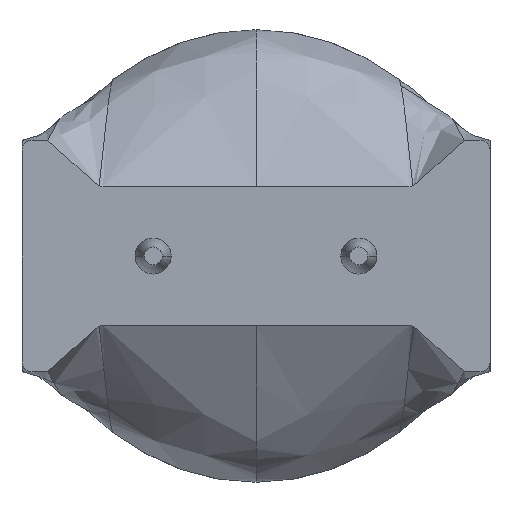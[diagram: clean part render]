
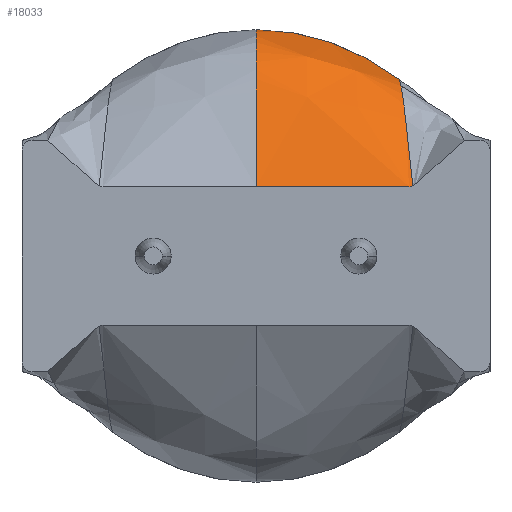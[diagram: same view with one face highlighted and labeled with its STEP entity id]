
A CAD part, front view. The second image highlights one B-rep face of the part: STEP entity #18033.
In plain terms, the highlighted free-form (B-spline) face has degree [3, 3] with [4, 9] control points.
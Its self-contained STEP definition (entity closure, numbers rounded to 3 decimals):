
#7609 = CARTESIAN_POINT ( 'NONE',  ( 0., 0., 1.35 ) ) ;
#8089 = DIRECTION ( 'NONE',  ( 1., 0., 0. ) ) ;
#8090 = VECTOR ( 'NONE', #8089, 1000. ) ;
#8091 = CARTESIAN_POINT ( 'NONE',  ( -3.05, 0., 1.35 ) ) ;
#8092 = LINE ( 'NONE', #8091, #8090 ) ;
#8093 = CARTESIAN_POINT ( 'NONE',  ( 2.973, 0., 1.35 ) ) ;
#9619 = CARTESIAN_POINT ( 'NONE',  ( 2.734, 3., 3.447 ) ) ;
#9631 = DIRECTION ( 'NONE',  ( 0., 0., 1. ) ) ;
#9632 = DIRECTION ( 'NONE',  ( 0., 1., 0. ) ) ;
#9633 = CARTESIAN_POINT ( 'NONE',  ( 0., 3., 0. ) ) ;
#9634 = AXIS2_PLACEMENT_3D ( 'NONE', #9633, #9632, #9631 ) ;
#9635 = CIRCLE ( 'NONE', #9634, 4.4 ) ;
#10106 = CARTESIAN_POINT ( 'NONE',  ( 0., 3., 4.4 ) ) ;
#11373 = CARTESIAN_POINT ( 'NONE',  ( 0., 0.94, 3.159 ) ) ;
#11374 = CARTESIAN_POINT ( 'NONE',  ( 0., 0.553, 2.413 ) ) ;
#11375 = CARTESIAN_POINT ( 'NONE',  ( 0., 0.239, 1.81 ) ) ;
#11376 = CARTESIAN_POINT ( 'NONE',  ( 0., 0., 1.35 ) ) ;
#11378 = B_SPLINE_CURVE_WITH_KNOTS ( 'NONE', 3,
 ( #11393, #11392, #11451, #11450, #11449, #11448, #11447 ),
 .UNSPECIFIED., .F., .F.,
 ( 4, 3, 4 ),
 ( 0., 0., 0. ),
 .UNSPECIFIED. ) ;
#11380 =( BOUNDED_SURFACE ( )  B_SPLINE_SURFACE ( 3, 3, ( 
 ( #11376, #11375, #11374, #11373, #11426, #11425, #11424, #11423, #11422 ),
 ( #11421, #11420, #11419, #11418, #11417, #11416, #11415, #11414, #11413 ),
 ( #11412, #11411, #11410, #11409, #11408, #11407, #11406, #11405, #11404 ),
 ( #11403, #11402, #11401, #11400, #11399, #11398, #11397, #11396, #11395 ) ),
 .UNSPECIFIED., .F., .F., .F. ) 
 B_SPLINE_SURFACE_WITH_KNOTS ( ( 4, 4 ),
 ( 4, 1, 1, 1, 1, 1, 4 ),
 ( 0., 1. ),
 ( 0., 0.333, 0.438, 0.542, 0.667, 0.875, 1. ),
 .UNSPECIFIED. ) 
 GEOMETRIC_REPRESENTATION_ITEM ( )  RATIONAL_B_SPLINE_SURFACE ( (
 ( 1., 1., 1., 1., 1., 1., 1., 1., 1.),
 ( 1., 0.996, 0.99, 0.984, 0.98, 0.974, 0.969, 0.964, 0.963),
 ( 1., 0.996, 0.99, 0.984, 0.98, 0.974, 0.969, 0.964, 0.963),
 ( 1., 1., 1., 1., 1., 1., 1., 1., 1.) ) ) 
 REPRESENTATION_ITEM ( '' )  SURFACE ( )  );
#11381 = CARTESIAN_POINT ( 'NONE',  ( 0., 3., 4.4 ) ) ;
#11382 = CARTESIAN_POINT ( 'NONE',  ( 0., 2.805, 4.398 ) ) ;
#11383 = CARTESIAN_POINT ( 'NONE',  ( 0., 2.287, 4.394 ) ) ;
#11384 = CARTESIAN_POINT ( 'NONE',  ( 0., 1.65, 4.091 ) ) ;
#11385 = CARTESIAN_POINT ( 'NONE',  ( 0., 1.181, 3.62 ) ) ;
#11386 = CARTESIAN_POINT ( 'NONE',  ( 0., 0.94, 3.159 ) ) ;
#11387 = CARTESIAN_POINT ( 'NONE',  ( 0., 0.553, 2.413 ) ) ;
#11388 = CARTESIAN_POINT ( 'NONE',  ( 0., 0.239, 1.81 ) ) ;
#11389 = CARTESIAN_POINT ( 'NONE',  ( 0., 0., 1.35 ) ) ;
#11390 = B_SPLINE_CURVE_WITH_KNOTS ( 'NONE', 3,
 ( #11389, #11388, #11387, #11386, #11385, #11384, #11383, #11382, #11381 ),
 .UNSPECIFIED., .F., .F.,
 ( 4, 1, 1, 1, 1, 1, 4 ),
 ( 0., 0.333, 0.438, 0.542, 0.667, 0.875, 1. ),
 .UNSPECIFIED. ) ;
#11391 = FACE_OUTER_BOUND ( 'NONE', #18034, .T. ) ;
#11392 = CARTESIAN_POINT ( 'NONE',  ( 2.991, 0., 1.35 ) ) ;
#11393 = CARTESIAN_POINT ( 'NONE',  ( 2.973, 0., 1.35 ) ) ;
#11394 = CARTESIAN_POINT ( 'NONE',  ( 3.048, 0.012, 1.365 ) ) ;
#11395 = CARTESIAN_POINT ( 'NONE',  ( 2.734, 3., 3.447 ) ) ;
#11396 = CARTESIAN_POINT ( 'NONE',  ( 2.747, 2.823, 3.454 ) ) ;
#11397 = CARTESIAN_POINT ( 'NONE',  ( 2.782, 2.35, 3.472 ) ) ;
#11398 = CARTESIAN_POINT ( 'NONE',  ( 2.831, 1.758, 3.273 ) ) ;
#11399 = CARTESIAN_POINT ( 'NONE',  ( 2.877, 1.297, 2.948 ) ) ;
#11400 = CARTESIAN_POINT ( 'NONE',  ( 2.912, 1.033, 2.624 ) ) ;
#11401 = CARTESIAN_POINT ( 'NONE',  ( 2.969, 0.607, 2.098 ) ) ;
#11402 = CARTESIAN_POINT ( 'NONE',  ( 3.015, 0.263, 1.674 ) ) ;
#11403 = CARTESIAN_POINT ( 'NONE',  ( 3.05, 0., 1.35 ) ) ;
#11404 = CARTESIAN_POINT ( 'NONE',  ( 1.949, 3., 4.07 ) ) ;
#11405 = CARTESIAN_POINT ( 'NONE',  ( 1.952, 2.816, 4.06 ) ) ;
#11406 = CARTESIAN_POINT ( 'NONE',  ( 1.962, 2.325, 4.034 ) ) ;
#11407 = CARTESIAN_POINT ( 'NONE',  ( 1.975, 1.715, 3.751 ) ) ;
#11408 = CARTESIAN_POINT ( 'NONE',  ( 1.987, 1.249, 3.331 ) ) ;
#11409 = CARTESIAN_POINT ( 'NONE',  ( 1.997, 0.993, 2.928 ) ) ;
#11410 = CARTESIAN_POINT ( 'NONE',  ( 2.012, 0.583, 2.276 ) ) ;
#11411 = CARTESIAN_POINT ( 'NONE',  ( 2.024, 0.252, 1.75 ) ) ;
#11412 = CARTESIAN_POINT ( 'NONE',  ( 2.033, 0., 1.35 ) ) ;
#11413 = CARTESIAN_POINT ( 'NONE',  ( 1.002, 3., 4.4 ) ) ;
#11414 = CARTESIAN_POINT ( 'NONE',  ( 1.003, 2.805, 4.398 ) ) ;
#11415 = CARTESIAN_POINT ( 'NONE',  ( 1.006, 2.287, 4.394 ) ) ;
#11416 = CARTESIAN_POINT ( 'NONE',  ( 1.009, 1.65, 4.091 ) ) ;
#11417 = CARTESIAN_POINT ( 'NONE',  ( 1.011, 1.181, 3.62 ) ) ;
#11418 = CARTESIAN_POINT ( 'NONE',  ( 1.012, 0.94, 3.159 ) ) ;
#11419 = CARTESIAN_POINT ( 'NONE',  ( 1.013, 0.553, 2.413 ) ) ;
#11420 = CARTESIAN_POINT ( 'NONE',  ( 1.015, 0.239, 1.81 ) ) ;
#11421 = CARTESIAN_POINT ( 'NONE',  ( 1.017, 0., 1.35 ) ) ;
#11422 = CARTESIAN_POINT ( 'NONE',  ( 0., 3., 4.4 ) ) ;
#11423 = CARTESIAN_POINT ( 'NONE',  ( 0., 2.805, 4.398 ) ) ;
#11424 = CARTESIAN_POINT ( 'NONE',  ( 0., 2.287, 4.394 ) ) ;
#11425 = CARTESIAN_POINT ( 'NONE',  ( 0., 1.65, 4.091 ) ) ;
#11426 = CARTESIAN_POINT ( 'NONE',  ( 0., 1.181, 3.62 ) ) ;
#11447 = CARTESIAN_POINT ( 'NONE',  ( 3.048, 0.012, 1.365 ) ) ;
#11448 = CARTESIAN_POINT ( 'NONE',  ( 3.041, 0.01, 1.362 ) ) ;
#11449 = CARTESIAN_POINT ( 'NONE',  ( 3.034, 0.008, 1.359 ) ) ;
#11450 = CARTESIAN_POINT ( 'NONE',  ( 3.027, 0.006, 1.357 ) ) ;
#11451 = CARTESIAN_POINT ( 'NONE',  ( 3.01, 0.002, 1.353 ) ) ;
#11864 = CARTESIAN_POINT ( 'NONE',  ( 2.734, 3., 3.447 ) ) ;
#11865 = CARTESIAN_POINT ( 'NONE',  ( 2.747, 2.823, 3.454 ) ) ;
#11866 = CARTESIAN_POINT ( 'NONE',  ( 2.782, 2.35, 3.472 ) ) ;
#11867 = CARTESIAN_POINT ( 'NONE',  ( 2.831, 1.758, 3.273 ) ) ;
#11868 = CARTESIAN_POINT ( 'NONE',  ( 2.877, 1.297, 2.948 ) ) ;
#11869 = CARTESIAN_POINT ( 'NONE',  ( 2.912, 1.033, 2.624 ) ) ;
#11870 = CARTESIAN_POINT ( 'NONE',  ( 2.968, 0.611, 2.103 ) ) ;
#11871 = CARTESIAN_POINT ( 'NONE',  ( 3.014, 0.271, 1.683 ) ) ;
#11872 = CARTESIAN_POINT ( 'NONE',  ( 3.048, 0.012, 1.365 ) ) ;
#11874 = B_SPLINE_CURVE_WITH_KNOTS ( 'NONE', 3,
 ( #11872, #11871, #11870, #11869, #11868, #11867, #11866, #11865, #11864 ),
 .UNSPECIFIED., .F., .F.,
 ( 4, 1, 1, 1, 1, 1, 4 ),
 ( 0.005, 0.333, 0.438, 0.542, 0.667, 0.875, 1. ),
 .UNSPECIFIED. ) ;
#16895 = VERTEX_POINT ( 'NONE', #7609 ) ;
#17015 = VERTEX_POINT ( 'NONE', #8093 ) ;
#17017 = EDGE_CURVE ( 'NONE', #16895, #17015, #8092, .T. ) ;
#17560 = EDGE_CURVE ( 'NONE', #17689, #17573, #9635, .T. ) ;
#17573 = VERTEX_POINT ( 'NONE', #9619 ) ;
#17689 = VERTEX_POINT ( 'NONE', #10106 ) ;
#18017 = ORIENTED_EDGE ( 'NONE', *, *, #18031, .F. ) ;
#18031 = EDGE_CURVE ( 'NONE', #16895, #17689, #11390, .T. ) ;
#18033 = ADVANCED_FACE ( 'NONE', ( #11391 ), #11380, .T. ) ;
#18034 = EDGE_LOOP ( 'NONE', ( #18035, #18036, #18096, #18098, #18017 ) ) ;
#18035 = ORIENTED_EDGE ( 'NONE', *, *, #17017, .T. ) ;
#18036 = ORIENTED_EDGE ( 'NONE', *, *, #18037, .T. ) ;
#18037 = EDGE_CURVE ( 'NONE', #17015, #18038, #11378, .T. ) ;
#18038 = VERTEX_POINT ( 'NONE', #11394 ) ;
#18096 = ORIENTED_EDGE ( 'NONE', *, *, #18097, .T. ) ;
#18097 = EDGE_CURVE ( 'NONE', #18038, #17573, #11874, .T. ) ;
#18098 = ORIENTED_EDGE ( 'NONE', *, *, #17560, .F. ) ;
